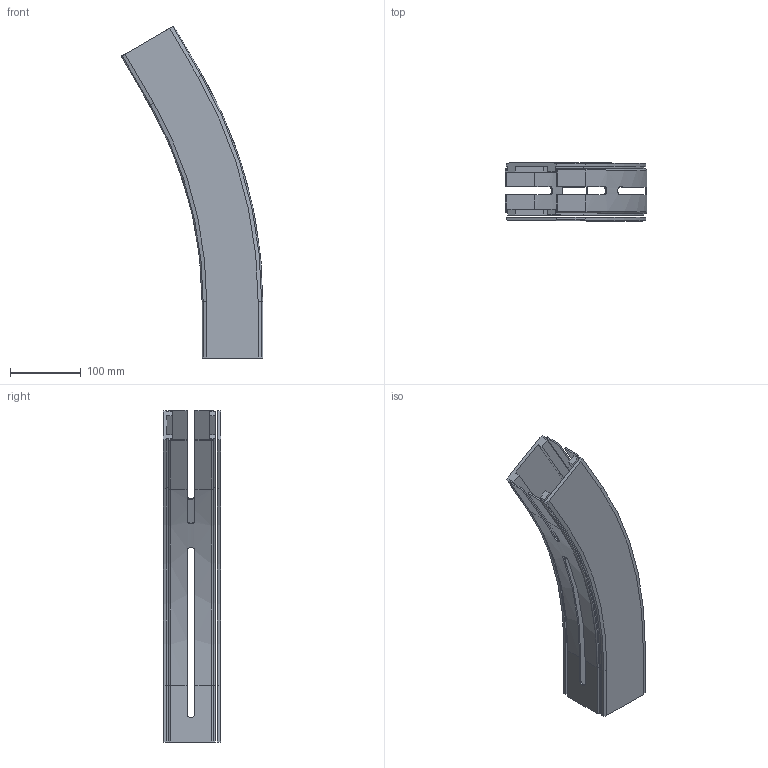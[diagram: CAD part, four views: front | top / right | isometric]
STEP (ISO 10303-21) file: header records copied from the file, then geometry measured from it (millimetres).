
FILE_DESCRIPTION((''),'2;1');
FILE_NAME('C:\Vault Klient\Projekt\Koncept konstruktion\Serie 530 Balk\530-5340.stp','2010-12-01T08:20:27',('Mathias'),(''),'Autodesk Inventor 2011','Autodesk Inventor 2011','');
FILE_SCHEMA(('AUTOMOTIVE_DESIGN { 1 0 10303 214 1 1 1 1 }'));
Length unit declared in the file: millimetre
Products named in the file (1): 530-5340
Bounding box: 200.62 x 82 x 470.78 mm (x, y, z)
Volume: 686444.8 mm3; surface area: 329643.9 mm2
Topology: 2 solids, 2 shells, 163 faces, 458 edges, 300 vertices
Faces by surface type: plane 107, cylinder 30, bspline 18, torus 4, cone 4
Entity records: 5582 total; most frequent: CARTESIAN_POINT 1328, ORIENTED_EDGE 916, DIRECTION 798, EDGE_CURVE 458, VECTOR 338, LINE 338, VERTEX_POINT 300, AXIS2_PLACEMENT_3D 230
